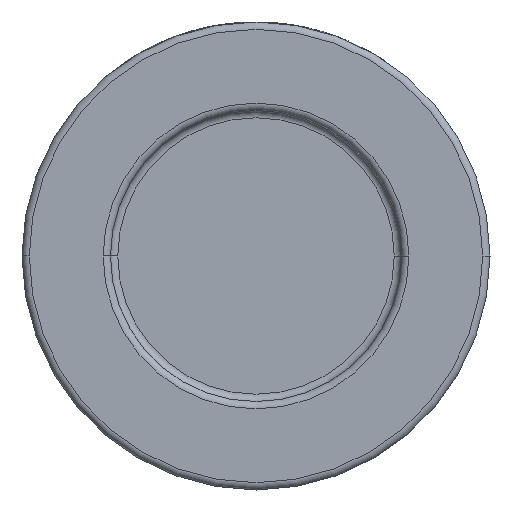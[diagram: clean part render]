
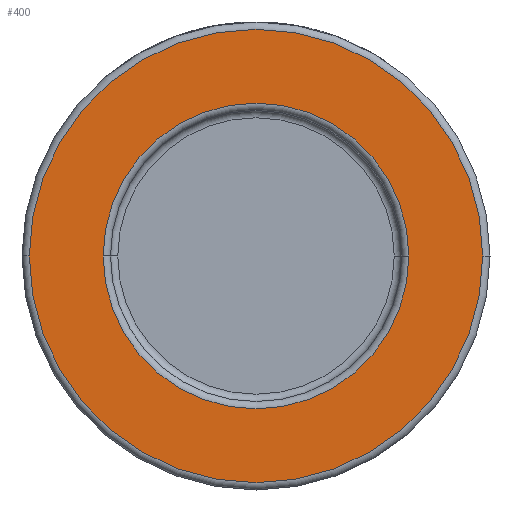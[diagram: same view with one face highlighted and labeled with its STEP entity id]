
A CAD part, front view. The second image highlights one B-rep face of the part: STEP entity #400.
In plain terms, the highlighted planar face has unit normal (0, -1, 0).
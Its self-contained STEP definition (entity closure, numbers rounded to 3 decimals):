
#8 = ORIENTED_EDGE ( 'NONE', *, *, #1548, .T. ) ;
#175 = ORIENTED_EDGE ( 'NONE', *, *, #1899, .T. ) ;
#196 = EDGE_LOOP ( 'NONE', ( #175, #2917 ) ) ;
#325 = VERTEX_POINT ( 'NONE', #3049 ) ;
#368 = PLANE ( 'NONE',  #396 ) ;
#386 = CARTESIAN_POINT ( 'NONE',  ( -31., -22., 0. ) ) ;
#396 = AXIS2_PLACEMENT_3D ( 'NONE', #2426, #3814, #3841 ) ;
#400 = ADVANCED_FACE ( 'NONE', ( #709, #2402 ), #368, .T. ) ;
#451 = DIRECTION ( 'NONE',  ( 0., -1., 0. ) ) ;
#516 = ORIENTED_EDGE ( 'NONE', *, *, #2897, .T. ) ;
#709 = FACE_BOUND ( 'NONE', #2065, .T. ) ;
#773 = EDGE_CURVE ( 'NONE', #3018, #325, #2095, .T. ) ;
#918 = CARTESIAN_POINT ( 'NONE',  ( 0., -22., 0. ) ) ;
#1470 = DIRECTION ( 'NONE',  ( 0., 1., 0. ) ) ;
#1548 = EDGE_CURVE ( 'NONE', #3199, #3938, #2109, .T. ) ;
#1598 = AXIS2_PLACEMENT_3D ( 'NONE', #918, #2706, #4145 ) ;
#1899 = EDGE_CURVE ( 'NONE', #325, #3018, #4553, .T. ) ;
#1963 = AXIS2_PLACEMENT_3D ( 'NONE', #2570, #1470, #2206 ) ;
#2065 = EDGE_LOOP ( 'NONE', ( #516, #8 ) ) ;
#2095 = CIRCLE ( 'NONE', #2683, 31. ) ;
#2109 = CIRCLE ( 'NONE', #1963, 20.9 ) ;
#2206 = DIRECTION ( 'NONE',  ( 1., 0., 0. ) ) ;
#2299 = CARTESIAN_POINT ( 'NONE',  ( -20.9, -22., 0. ) ) ;
#2402 = FACE_OUTER_BOUND ( 'NONE', #196, .T. ) ;
#2426 = CARTESIAN_POINT ( 'NONE',  ( 32., -22., 0. ) ) ;
#2570 = CARTESIAN_POINT ( 'NONE',  ( 0., -22., 0. ) ) ;
#2683 = AXIS2_PLACEMENT_3D ( 'NONE', #3633, #451, #2919 ) ;
#2706 = DIRECTION ( 'NONE',  ( 0., -1., 0. ) ) ;
#2897 = EDGE_CURVE ( 'NONE', #3938, #3199, #3736, .T. ) ;
#2917 = ORIENTED_EDGE ( 'NONE', *, *, #773, .T. ) ;
#2919 = DIRECTION ( 'NONE',  ( 1., 0., 0. ) ) ;
#3018 = VERTEX_POINT ( 'NONE', #386 ) ;
#3049 = CARTESIAN_POINT ( 'NONE',  ( 31., -22., 0. ) ) ;
#3199 = VERTEX_POINT ( 'NONE', #2299 ) ;
#3416 = CARTESIAN_POINT ( 'NONE',  ( 0., -22., 0. ) ) ;
#3633 = CARTESIAN_POINT ( 'NONE',  ( 0., -22., 0. ) ) ;
#3736 = CIRCLE ( 'NONE', #3892, 20.9 ) ;
#3814 = DIRECTION ( 'NONE',  ( 0., -1., 0. ) ) ;
#3841 = DIRECTION ( 'NONE',  ( 1., 0., 0. ) ) ;
#3892 = AXIS2_PLACEMENT_3D ( 'NONE', #3416, #4488, #4512 ) ;
#3938 = VERTEX_POINT ( 'NONE', #4363 ) ;
#4145 = DIRECTION ( 'NONE',  ( 1., 0., 0. ) ) ;
#4363 = CARTESIAN_POINT ( 'NONE',  ( 20.9, -22., 0. ) ) ;
#4488 = DIRECTION ( 'NONE',  ( 0., 1., 0. ) ) ;
#4512 = DIRECTION ( 'NONE',  ( 1., 0., 0. ) ) ;
#4553 = CIRCLE ( 'NONE', #1598, 31. ) ;
